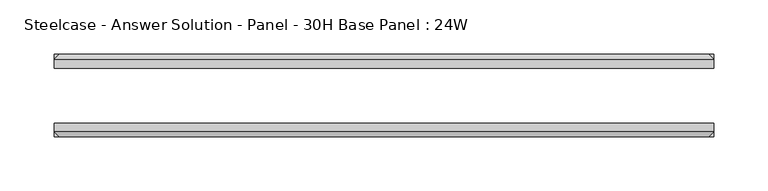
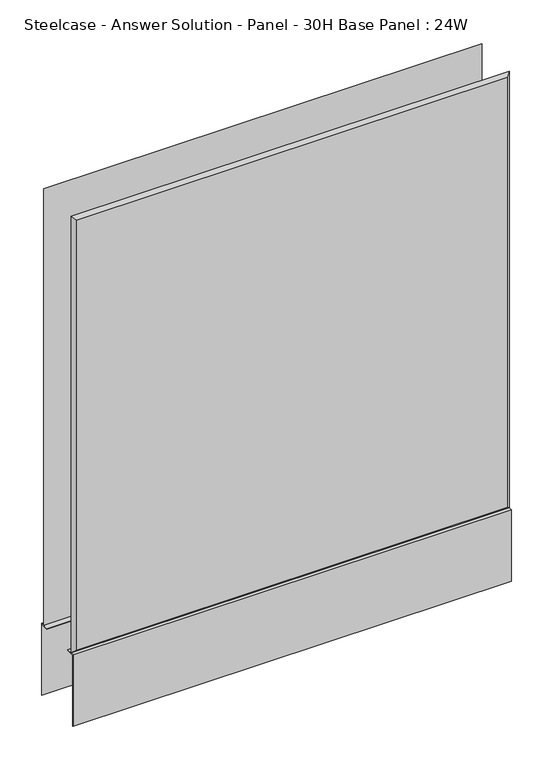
"""IFC4 building model written with IfcOpenShell, lengths in millimetres: furniture geometry, Steelcase - Answer Solution - Panel - 30H Base Panel : 24W."""

from ifc_helpers import new_model, si_unit, frame, origin, place, context, project, spatial, polyline, outline, extrude, faceted_brep, source, transform, mapped, element, save


def steelcase_answer_solution_panel_30h_base_panel_24w_f803bbf1(model_context):
    return source(origin(), model_context, "Body", "SolidModel", [
        faceted_brep([(299.974, 38.1635011, 757.174), (299.974, 38.1635011, 125.476), (-299.974, 38.1635011, 125.476), (-299.974, 38.1635011, 757.174), (304.8, 33.3375011, 762.0), (-304.8, 33.3375011, 762.0), (-304.8, 33.3375011, 120.65), (304.8, 33.3375011, 120.65)], [[[0, 1, 2, 3]], [[4, 5, 6, 7]], [[4, 0, 3, 5]], [[5, 3, 2, 6]], [[6, 2, 1, 7]], [[7, 1, 0, 4]]]),
        faceted_brep([(299.974, -38.1635011, 757.174), (-299.974, -38.1635011, 757.174), (-299.974, -38.1635011, 125.476), (299.974, -38.1635011, 125.476), (304.8, -33.3375011, 762.0), (304.8, -33.3375011, 120.65), (-304.8, -33.3375011, 120.65), (-304.8, -33.3375011, 762.0)], [[[0, 1, 2, 3]], [[4, 5, 6, 7]], [[4, 7, 1, 0]], [[7, 6, 2, 1]], [[6, 5, 3, 2]], [[5, 4, 0, 3]]]),
        extrude(outline(polyline([(37.3075215, 119.8575157), (25.4000011, 119.8575157), (25.4000011, 120.65), (38.1000194, 120.65), (38.1000194, 15.494), (37.3075215, 15.494), (37.3075215, 119.8575157)])), frame((-304.8, 0.0, 0.0), z_axis=(1.0, 0.0, 0.0), x_axis=(0.0, 1.0, 0.0)), (0.0, 0.0, 1.0), 609.6),
        extrude(outline(polyline([(-37.3075215, 119.8575157), (-37.3075215, 15.494), (-38.1000194, 15.494), (-38.1000194, 120.65), (-25.4000011, 120.65), (-25.4000011, 119.8575157), (-37.3075215, 119.8575157)])), frame((-304.8, 0.0, 0.0), z_axis=(1.0, 0.0, 0.0), x_axis=(0.0, 1.0, 0.0)), (0.0, 0.0, 1.0), 609.6),
    ])


if __name__ == "__main__":
    model = new_model("IFC4")
    model_context = context("Model", 3, world=origin())
    ifc_project = project(units=[si_unit("LENGTHUNIT", "METRE", prefix="MILLI")], contexts=[model_context])
    site = spatial("IfcSite", under=ifc_project)
    building = spatial("IfcBuilding", under=site)
    placement = place(None, origin())
    steelcase_answer_solution_panel_30h_base_panel_24w_shape = steelcase_answer_solution_panel_30h_base_panel_24w_f803bbf1(model_context)
    element("IfcFurniture", 1, ObjectType="Steelcase - Answer Solution - Panel - 30H Base Panel : 24W", at=placement, inside=building, context=model_context, shape_type="MappedRepresentation", body=[
        mapped(steelcase_answer_solution_panel_30h_base_panel_24w_shape, transform((0.0, 0.0, 0.0), x_axis=(1.0, 0.0, 0.0), y_axis=(0.0, 1.0, 0.0), z_axis=(0.0, 0.0, 1.0))),
    ])
    save(model, "model.ifc")
